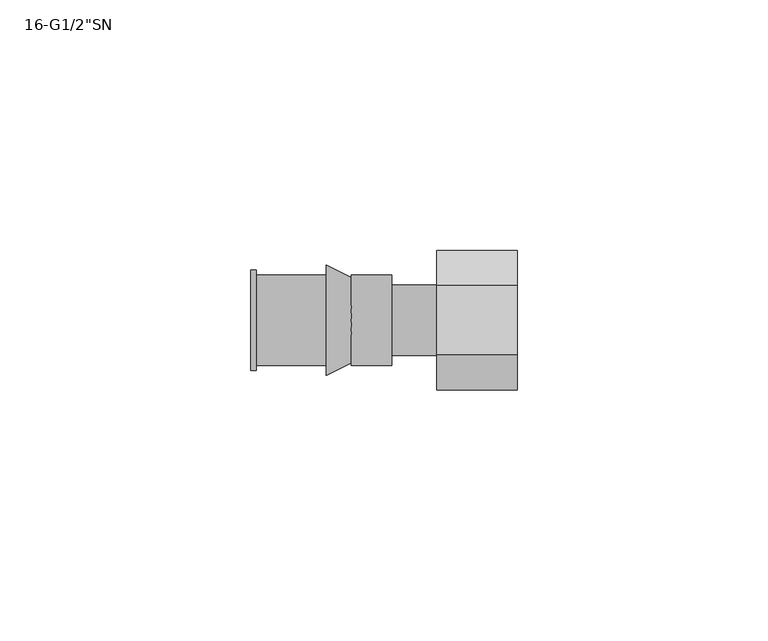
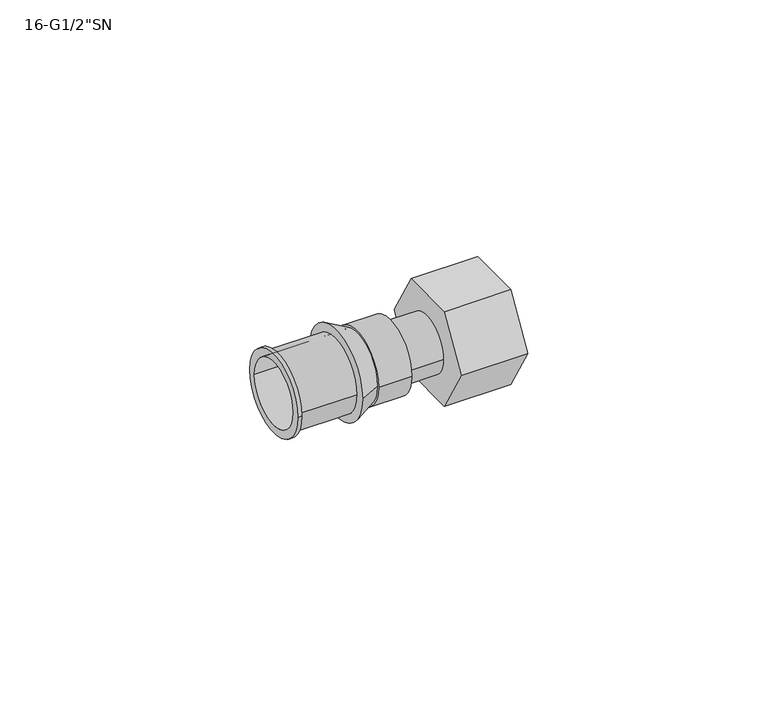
"""IFC4 building model written with IfcOpenShell, lengths in millimetres: pipe fitting geometry."""

from ifc_helpers import new_model, si_unit, frame, origin, place, context, project, spatial, polyline, circle_curve, source, transform, mapped, element, save
from ifc_brep_helpers import plane_surface, cylinder_surface, revolved_surface, advanced_brep


def pipe_fitting_3e6d713a(model_context):
    return source(origin(), model_context, "Body", "AdvancedBrep", [
        advanced_brep(
        [(-4.0, -8.5, 0.0), (-4.0, 8.5, 0.0), (-4.0, -8.0, 0.0), (-4.0, 8.0, 0.0), (-9.0, -11.0, 0.0), (-9.0, 11.0, 0.0), (-9.0, 8.0, 0.0), (-9.0, -8.0, 0.0)],
        [
            (0, 1, circle_curve(frame((-4.0, 0.0, 0.0), z_axis=(1.0, 0.0, 0.0), x_axis=(0.0, -1.0, 0.0)), 8.5)),
            (1, 0, circle_curve(frame((-4.0, 0.0, 0.0), z_axis=(1.0, 0.0, 0.0), x_axis=(0.0, 1.0, 0.0)), 8.5)),
            (2, 3, circle_curve(frame((-4.0, 0.0, 0.0), z_axis=(-1.0, 0.0, 0.0), x_axis=(0.0, 1.0, 0.0)), 8.0)),
            (3, 2, circle_curve(frame((-4.0, 0.0, 0.0), z_axis=(-1.0, 0.0, 0.0), x_axis=(0.0, 1.0, 0.0)), 8.0)),
            (4, 5, circle_curve(frame((-9.0, 0.0, 0.0), z_axis=(-1.0, 0.0, 0.0), x_axis=(0.0, 1.0, 0.0)), 11.0)),
            (5, 4, circle_curve(frame((-9.0, 0.0, 0.0), z_axis=(-1.0, 0.0, 0.0), x_axis=(0.0, -1.0, 0.0)), 11.0)),
            (6, 7, circle_curve(frame((-9.0, 0.0, 0.0), z_axis=(1.0, 0.0, 0.0), x_axis=(0.0, 1.0, 0.0)), 8.0)),
            (7, 6, circle_curve(frame((-9.0, 0.0, 0.0), z_axis=(1.0, 0.0, 0.0), x_axis=(0.0, 1.0, 0.0)), 8.0)),
            (0, 4),
            (5, 1),
            (6, 3),
            (2, 7),
        ],
        [
            plane_surface(frame((-4.0, 0.0, 0.0), z_axis=(1.0, 0.0, 0.0), x_axis=(0.0, 0.0, -1.0))),
            plane_surface(frame((-9.0, 0.0, 0.0), z_axis=(-1.0, 0.0, 0.0), x_axis=(0.0, 0.0, -1.0))),
            revolved_surface(polyline([(-4.0, -8.5, 0.0), (-9.0, -11.0, 0.0)]), (13.0, 0.0, 0.0), (-1.0, 0.0, 0.0)),
            revolved_surface(polyline([(-4.0, 8.5, 0.0), (-9.0, 11.0, 0.0)]), (13.0, 0.0, 0.0), (-1.0, 0.0, 0.0)),
            revolved_surface(polyline([(-9.0, 8.0, 0.0), (-4.0, 8.0, 0.0)]), (-9.0, 0.0, 0.0), (-1.0, 0.0, 0.0)),
        ],
        [
            (0, [[1, 2], [3, 4]]),
            (1, [[5, 6], [7, 8]]),
            (2, [[-1, 9, -6, 10]]),
            (3, [[-2, -10, -5, -9]]),
            (4, [[11, -3, 12, -7]]),
            (4, [[-11, -8, -12, -4]]),
        ],
    ),
        advanced_brep(
        [(13.0, -13.8564065, 0.0), (13.0, -6.9282032, 12.0), (13.0, 6.9282032, 12.0), (13.0, 13.8564065, 0.0), (13.0, 6.9282032, -12.0), (13.0, -6.9282032, -12.0), (29.0, -13.8564065, 0.0), (29.0, -6.9282032, -12.0), (29.0, 6.9282032, -12.0), (29.0, 13.8564065, 0.0), (29.0, 6.9282032, 12.0), (29.0, -6.9282032, 12.0), (29.0, -8.5, 0.0), (29.0, 8.5, 0.0), (20.0, 8.5, 0.0), (20.0, -8.5, 0.0)],
        [
            (0, 1),
            (1, 2),
            (2, 3),
            (3, 4),
            (4, 5),
            (5, 0),
            (6, 7),
            (7, 8),
            (8, 9),
            (9, 10),
            (10, 11),
            (11, 6),
            (12, 13, circle_curve(frame((29.0, 0.0, 0.0), z_axis=(-1.0, 0.0, 0.0), x_axis=(0.0, -1.0, 0.0)), 8.5)),
            (13, 12, circle_curve(frame((29.0, 0.0, 0.0), z_axis=(-1.0, 0.0, 0.0), x_axis=(0.0, -1.0, 0.0)), 8.5)),
            (0, 6),
            (11, 1),
            (10, 2),
            (9, 3),
            (8, 4),
            (7, 5),
            (14, 15, circle_curve(frame((20.0, 0.0, 0.0), z_axis=(1.0, 0.0, 0.0), x_axis=(0.0, -1.0, 0.0)), 8.5)),
            (15, 14, circle_curve(frame((20.0, 0.0, 0.0), z_axis=(1.0, 0.0, 0.0), x_axis=(0.0, -1.0, 0.0)), 8.5)),
            (14, 13),
            (12, 15),
        ],
        [
            plane_surface(frame((13.0, 0.0, 0.0), z_axis=(-1.0, 0.0, 0.0), x_axis=(0.0, 0.0, 1.0))),
            plane_surface(frame((29.0, 0.0, 0.0), z_axis=(1.0, 0.0, 0.0), x_axis=(0.0, 0.0, 1.0))),
            plane_surface(frame((13.0, -13.8564065, 0.0), z_axis=(0.0, -0.866025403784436, 0.5000000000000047), x_axis=(1.0, 0.0, 0.0))),
            plane_surface(frame((13.0, -6.9282032, 12.0), z_axis=(0.0, 0.0, 1.0), x_axis=(1.0, 0.0, 0.0))),
            plane_surface(frame((13.0, 6.9282032, 12.0), z_axis=(0.0, 0.8660254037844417, 0.4999999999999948), x_axis=(1.0, 0.0, 0.0))),
            plane_surface(frame((13.0, 13.8564065, 0.0), z_axis=(0.0, 0.8660254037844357, -0.5000000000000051), x_axis=(1.0, 0.0, 0.0))),
            plane_surface(frame((13.0, 6.9282032, -12.0), z_axis=(0.0, 0.0, -1.0), x_axis=(1.0, 0.0, 0.0))),
            plane_surface(frame((13.0, -6.9282032, -12.0), z_axis=(0.0, -0.866025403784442, -0.49999999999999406), x_axis=(1.0, 0.0, 0.0))),
            plane_surface(frame((20.0, 0.0, 0.0), z_axis=(1.0, 0.0, 0.0), x_axis=(0.0, 0.0, 1.0))),
            revolved_surface(polyline([(29.0, -8.5, 0.0), (20.0, -8.5, 0.0)]), (29.0, 0.0, 0.0), (1.0, 0.0, 0.0)),
        ],
        [
            (0, [[1, 2, 3, 4, 5, 6]]),
            (1, [[7, 8, 9, 10, 11, 12], [13, 14]]),
            (2, [[-1, 15, -12, 16]]),
            (3, [[-2, -16, -11, 17]]),
            (4, [[-3, -17, -10, 18]]),
            (5, [[-4, -18, -9, 19]]),
            (6, [[-5, -19, -8, 20]]),
            (7, [[-6, -20, -7, -15]]),
            (8, [[21, 22]]),
            (9, [[-21, 23, -13, 24]]),
            (9, [[-22, -24, -14, -23]]),
        ],
    ),
        advanced_brep(
        [(-4.0, -9.0, 0.0), (-4.0, 9.0, 0.0), (4.0, -9.0, 0.0), (4.0, 9.0, 0.0), (4.0, -7.0, 0.0), (4.0, 7.0, 0.0), (13.0, -7.0, 0.0), (13.0, 7.0, 0.0)],
        [
            (0, 1, circle_curve(frame((-4.0, 0.0, 0.0), z_axis=(-1.0, 0.0, 0.0), x_axis=(0.0, 1.0, 0.0)), 9.0)),
            (1, 0, circle_curve(frame((-4.0, 0.0, 0.0), z_axis=(-1.0, 0.0, 0.0), x_axis=(0.0, 1.0, 0.0)), 9.0)),
            (2, 3, circle_curve(frame((4.0, 0.0, 0.0), z_axis=(1.0, 0.0, 0.0), x_axis=(0.0, 1.0, 0.0)), 9.0)),
            (3, 2, circle_curve(frame((4.0, 0.0, 0.0), z_axis=(1.0, 0.0, 0.0), x_axis=(0.0, 1.0, 0.0)), 9.0)),
            (4, 5, circle_curve(frame((4.0, 0.0, 0.0), z_axis=(-1.0, 0.0, 0.0), x_axis=(0.0, 1.0, 0.0)), 7.0)),
            (5, 4, circle_curve(frame((4.0, 0.0, 0.0), z_axis=(-1.0, 0.0, 0.0), x_axis=(0.0, 1.0, 0.0)), 7.0)),
            (1, 3),
            (2, 0),
            (6, 7, circle_curve(frame((13.0, 0.0, 0.0), z_axis=(1.0, 0.0, 0.0), x_axis=(0.0, 1.0, 0.0)), 7.0)),
            (7, 6, circle_curve(frame((13.0, 0.0, 0.0), z_axis=(1.0, 0.0, 0.0), x_axis=(0.0, 1.0, 0.0)), 7.0)),
            (7, 5),
            (4, 6),
        ],
        [
            plane_surface(frame((-4.0, 0.0, 0.0), z_axis=(-1.0, 0.0, 0.0), x_axis=(0.0, 0.0, 1.0))),
            plane_surface(frame((4.0, 0.0, 0.0), z_axis=(1.0, 0.0, 0.0), x_axis=(0.0, 0.0, 1.0))),
            cylinder_surface(frame((-4.0, 0.0, 0.0), z_axis=(-1.0, 0.0, 0.0), x_axis=(0.0, 1.0, 0.0)), 9.0),
            plane_surface(frame((13.0, 0.0, 0.0), z_axis=(1.0, 0.0, 0.0), x_axis=(0.0, 0.0, 1.0))),
            cylinder_surface(frame((4.0, 0.0, 0.0), z_axis=(-1.0, 0.0, 0.0), x_axis=(0.0, 1.0, 0.0)), 7.0),
        ],
        [
            (0, [[1, 2]]),
            (1, [[3, 4], [5, 6]]),
            (2, [[-2, 7, -3, 8]]),
            (2, [[-1, -8, -4, -7]]),
            (3, [[9, 10]]),
            (4, [[-10, 11, -5, 12]]),
            (4, [[-9, -12, -6, -11]]),
        ],
    ),
        advanced_brep(
        [(-24.0, -10.0, 0.0), (-24.0, 10.0, 0.0), (-24.0, -8.0, 0.0), (-24.0, 8.0, 0.0), (-9.0, -9.0, 0.0), (-9.0, 9.0, 0.0), (-9.0, -8.0, 0.0), (-9.0, 8.0, 0.0), (-23.0, 9.0, 0.0), (-23.0, -9.0, 0.0), (-23.0, -8.0, 0.0), (-23.0, 8.0, 0.0), (-23.0, -10.0, 0.0), (-23.0, 10.0, 0.0)],
        [
            (0, 1, circle_curve(frame((-24.0, 0.0, 0.0), z_axis=(-1.0, 0.0, 0.0), x_axis=(0.0, 1.0, 0.0)), 10.0)),
            (1, 0, circle_curve(frame((-24.0, 0.0, 0.0), z_axis=(-1.0, 0.0, 0.0), x_axis=(0.0, 1.0, 0.0)), 10.0)),
            (2, 3, circle_curve(frame((-24.0, 0.0, 0.0), z_axis=(1.0, 0.0, 0.0), x_axis=(0.0, 1.0, 0.0)), 8.0)),
            (3, 2, circle_curve(frame((-24.0, 0.0, 0.0), z_axis=(1.0, 0.0, 0.0), x_axis=(0.0, 1.0, 0.0)), 8.0)),
            (4, 5, circle_curve(frame((-9.0, 0.0, 0.0), z_axis=(1.0, 0.0, 0.0), x_axis=(0.0, 1.0, 0.0)), 9.0)),
            (5, 4, circle_curve(frame((-9.0, 0.0, 0.0), z_axis=(1.0, 0.0, 0.0), x_axis=(0.0, 1.0, 0.0)), 9.0)),
            (6, 7, circle_curve(frame((-9.0, 0.0, 0.0), z_axis=(-1.0, 0.0, 0.0), x_axis=(0.0, 1.0, 0.0)), 8.0)),
            (7, 6, circle_curve(frame((-9.0, 0.0, 0.0), z_axis=(-1.0, 0.0, 0.0), x_axis=(0.0, 1.0, 0.0)), 8.0)),
            (5, 8),
            (8, 9, circle_curve(frame((-23.0, 0.0, 0.0), z_axis=(1.0, 0.0, 0.0), x_axis=(0.0, 1.0, 0.0)), 9.0)),
            (9, 4),
            (9, 8, circle_curve(frame((-23.0, 0.0, 0.0), z_axis=(1.0, 0.0, 0.0), x_axis=(0.0, 1.0, 0.0)), 9.0)),
            (2, 10),
            (10, 6),
            (7, 11),
            (11, 3),
            (12, 13, circle_curve(frame((-23.0, 0.0, 0.0), z_axis=(1.0, 0.0, 0.0), x_axis=(0.0, 1.0, 0.0)), 10.0)),
            (13, 12, circle_curve(frame((-23.0, 0.0, 0.0), z_axis=(1.0, 0.0, 0.0), x_axis=(0.0, 1.0, 0.0)), 10.0)),
            (0, 12),
            (13, 1),
        ],
        [
            plane_surface(frame((-24.0, 0.0, 0.0), z_axis=(-1.0, 0.0, 0.0), x_axis=(0.0, 0.0, 1.0))),
            plane_surface(frame((-9.0, 0.0, 0.0), z_axis=(1.0, 0.0, 0.0), x_axis=(0.0, 0.0, 1.0))),
            cylinder_surface(frame((-24.0, 0.0, 0.0), z_axis=(-1.0, 0.0, 0.0), x_axis=(0.0, 1.0, 0.0)), 9.0),
            revolved_surface(polyline([(-9.0, 8.0, 0.0), (-24.0, 8.0, 0.0)]), (-24.0, 0.0, 0.0), (1.0, 0.0, 0.0)),
            plane_surface(frame((-23.0, 0.0, 0.0), z_axis=(1.0, 0.0, 0.0), x_axis=(0.0, 0.0, 1.0))),
            cylinder_surface(frame((-24.0, 0.0, 0.0), z_axis=(-1.0, 0.0, 0.0), x_axis=(0.0, 1.0, 0.0)), 10.0),
        ],
        [
            (0, [[1, 2], [3, 4]]),
            (1, [[5, 6], [7, 8]]),
            (2, [[-6, 9, 10, 11]]),
            (2, [[-5, -11, 12, -9]]),
            (3, [[-3, 13, 14, -8, 15, 16]]),
            (3, [[-4, -16, -15, -7, -14, -13]]),
            (4, [[17, 18], [-10, -12]]),
            (5, [[-1, 19, -18, 20]]),
            (5, [[-2, -20, -17, -19]]),
        ],
    ),
    ])


if __name__ == "__main__":
    model = new_model("IFC4")
    model_context = context("Model", 3, world=origin())
    ifc_project = project(units=[si_unit("LENGTHUNIT", "METRE", prefix="MILLI")], contexts=[model_context])
    site = spatial("IfcSite", under=ifc_project)
    building = spatial("IfcBuilding", under=site)
    placement = place(None, origin())
    pipe_fitting_shape = pipe_fitting_3e6d713a(model_context)
    element("IfcPipeFitting", 1, ObjectType="SuperPipe_AdapterSN_MAX_G : 16-G1/2\"SN", at=placement, inside=building, context=model_context, shape_type="MappedRepresentation", body=[
        mapped(pipe_fitting_shape, transform((0.0, 0.0, 0.0), x_axis=(1.0, 0.0, 0.0), y_axis=(0.0, 1.0, 0.0), z_axis=(0.0, 0.0, 1.0))),
    ])
    save(model, "model.ifc")
